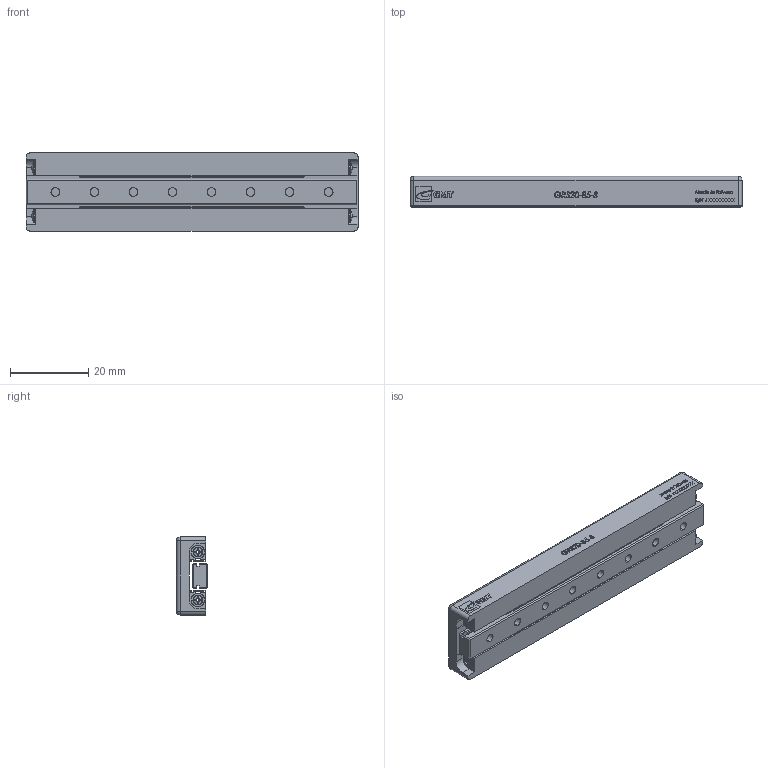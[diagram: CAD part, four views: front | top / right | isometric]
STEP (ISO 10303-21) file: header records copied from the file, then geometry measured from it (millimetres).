
FILE_DESCRIPTION (( 'STEP AP203' ), '1' );
FILE_NAME ('GRS20-85-S.STEP', '2013-12-20T08:54:21', ( '' ), ( '' ), 'SwSTEP 2.0', 'SolidWorks 2013', '' );
FILE_SCHEMA (( 'CONFIG_CONTROL_DESIGN' ));
Length unit declared in the file: millimetre
Products named in the file (1): GRS20-85-S
Bounding box: 85 x 8 x 20 mm (x, y, z)
Surface area: 8284.5 mm2 (no closed solid volume)
Topology: 0 solids, 27 shells, 382 faces, 2222 edges, 1828 vertices
Faces by surface type: plane 238, cylinder 66, bspline 26, torus 24, cone 16, sphere 12
Entity records: 26721 total; most frequent: CARTESIAN_POINT 10471, ORIENTED_EDGE 2976, DIRECTION 2918, EDGE_CURVE 2218, VERTEX_POINT 1828, LINE 1432, VECTOR 1432, AXIS2_PLACEMENT_3D 743
